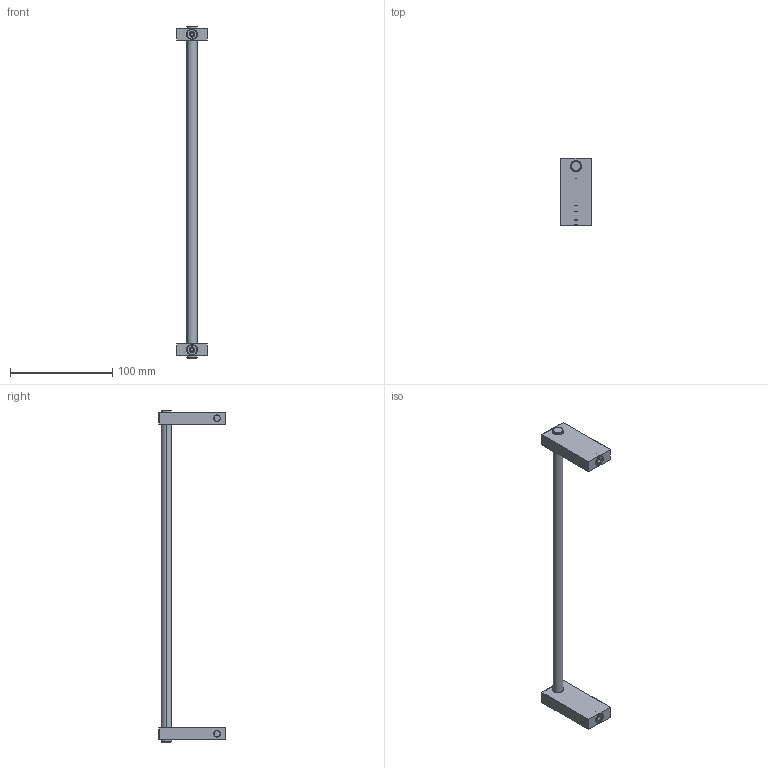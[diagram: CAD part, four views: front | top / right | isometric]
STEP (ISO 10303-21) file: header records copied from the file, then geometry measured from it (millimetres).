
FILE_DESCRIPTION (( 'STEP AP203' ), '1' );
FILE_NAME ('CWR3.STEP', '2020-12-15T13:44:28', ( '' ), ( '' ), 'SwSTEP 2.0', 'SolidWorks 2021', '' );
FILE_SCHEMA (( 'CONFIG_CONTROL_DESIGN' ));
Length unit declared in the file: millimetre
Products named in the file (8): C25.2363.00.0; C11.14.0008; C47.00.0023.01; C25.2285.00.0; CWR3; C24.0764.00.0; C24.2284.00.0; C11.14.0019
Assembly tree (13 placements, depth 2):
  CWR3
    C25.2363.00.0
    C24.0764.00.0  x2
    C11.14.0019  x2
    C24.2284.00.0  x2
    C25.2285.00.0  x2
    C47.00.0023.01  x2
    C11.14.0008  x2
Bounding box: 30 x 65 x 324 mm (x, y, z)
Volume: 52736.3 mm3; surface area: 36624.8 mm2
Topology: 13 solids, 13 shells, 274 faces, 604 edges, 364 vertices
Faces by surface type: cylinder 94, plane 86, cone 70, bspline 12, sphere 8, torus 4
Entity records: 5307 total; most frequent: CARTESIAN_POINT 1185, DIRECTION 706, ORIENTED_EDGE 608, EDGE_CURVE 304, AXIS2_PLACEMENT_3D 288, VERTEX_POINT 186, EDGE_LOOP 158, ADVANCED_FACE 140
